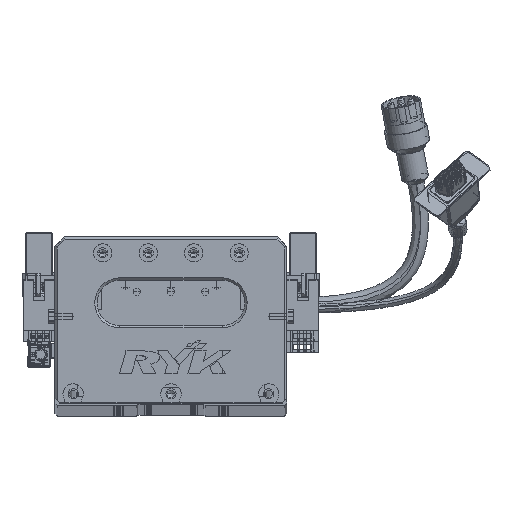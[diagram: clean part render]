
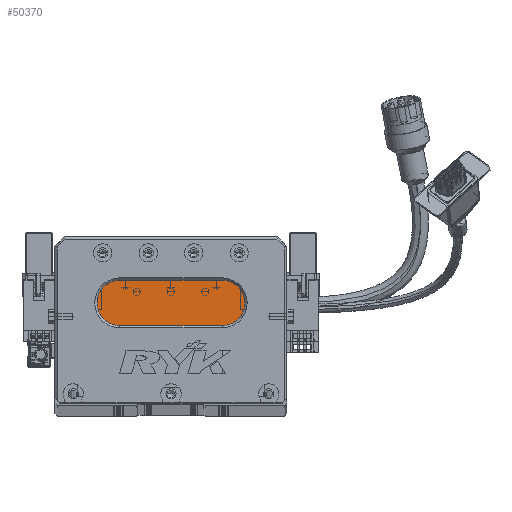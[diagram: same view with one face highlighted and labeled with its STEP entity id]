
A CAD part, top view. The second image highlights one B-rep face of the part: STEP entity #50370.
In plain terms, the highlighted planar face has unit normal (0, 0, 1) as drawn and (0, 0, -1) by its records, which use the part's own axes.
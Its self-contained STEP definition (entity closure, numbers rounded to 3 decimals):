
#1992 = CARTESIAN_POINT ( 'NONE',  ( 73.5, 34., 13. ) ) ;
#3197 = CARTESIAN_POINT ( 'NONE',  ( 73.5, 34., 13. ) ) ;
#5204 = AXIS2_PLACEMENT_3D ( 'NONE', #30850, #64890, #24337 ) ;
#6355 = AXIS2_PLACEMENT_3D ( 'NONE', #33076, #32782, #26278 ) ;
#8850 = EDGE_LOOP ( 'NONE', ( #16982, #85801, #21104, #55664, #73897 ) ) ;
#14560 = DIRECTION ( 'NONE',  ( -1., 0., 0. ) ) ;
#15978 = CARTESIAN_POINT ( 'NONE',  ( 18.5, 44., 13. ) ) ;
#16982 = ORIENTED_EDGE ( 'NONE', *, *, #57959, .T. ) ;
#18154 = VERTEX_POINT ( 'NONE', #60741 ) ;
#18693 = CIRCLE ( 'NONE', #84537, 10. ) ;
#21104 = ORIENTED_EDGE ( 'NONE', *, *, #57321, .T. ) ;
#23284 = CARTESIAN_POINT ( 'NONE',  ( 73.5, 54., 13. ) ) ;
#24105 = LINE ( 'NONE', #1992, #37833 ) ;
#24337 = DIRECTION ( 'NONE',  ( -1., 0., 0. ) ) ;
#25679 = CARTESIAN_POINT ( 'NONE',  ( 28.5, 44., 13. ) ) ;
#25717 = CIRCLE ( 'NONE', #6355, 10. ) ;
#26070 = VERTEX_POINT ( 'NONE', #15978 ) ;
#26278 = DIRECTION ( 'NONE',  ( -1., 0., 0. ) ) ;
#30850 = CARTESIAN_POINT ( 'NONE',  ( 28.5, 44., 13. ) ) ;
#32782 = DIRECTION ( 'NONE',  ( 0., 0., -1. ) ) ;
#33076 = CARTESIAN_POINT ( 'NONE',  ( 73.5, 44., 13. ) ) ;
#34139 = EDGE_CURVE ( 'NONE', #26070, #49040, #18693, .T. ) ;
#35856 = AXIS2_PLACEMENT_3D ( 'NONE', #54789, #68671, #14560 ) ;
#37833 = VECTOR ( 'NONE', #42708, 1000. ) ;
#38856 = VECTOR ( 'NONE', #80092, 1000. ) ;
#40181 = EDGE_CURVE ( 'NONE', #49040, #47229, #60135, .T. ) ;
#42708 = DIRECTION ( 'NONE',  ( -1., 0., 0. ) ) ;
#46941 = CARTESIAN_POINT ( 'NONE',  ( 73.5, 54., 13. ) ) ;
#47229 = VERTEX_POINT ( 'NONE', #23284 ) ;
#48548 = PLANE ( 'NONE',  #35856 ) ;
#49040 = VERTEX_POINT ( 'NONE', #73346 ) ;
#50370 = ADVANCED_FACE ( 'NONE', ( #70405 ), #48548, .T. ) ;
#53217 = DIRECTION ( 'NONE',  ( 0., 0., -1. ) ) ;
#54789 = CARTESIAN_POINT ( 'NONE',  ( 73.5, 44., 13. ) ) ;
#55664 = ORIENTED_EDGE ( 'NONE', *, *, #34139, .T. ) ;
#57321 = EDGE_CURVE ( 'NONE', #18154, #26070, #79886, .T. ) ;
#57959 = EDGE_CURVE ( 'NONE', #47229, #75361, #25717, .T. ) ;
#60135 = LINE ( 'NONE', #46941, #38856 ) ;
#60741 = CARTESIAN_POINT ( 'NONE',  ( 28.5, 34., 13. ) ) ;
#64890 = DIRECTION ( 'NONE',  ( 0., 0., -1. ) ) ;
#68671 = DIRECTION ( 'NONE',  ( 0., 0., -1. ) ) ;
#69210 = EDGE_CURVE ( 'NONE', #75361, #18154, #24105, .T. ) ;
#70405 = FACE_OUTER_BOUND ( 'NONE', #8850, .T. ) ;
#72428 = DIRECTION ( 'NONE',  ( -1., 0., 0. ) ) ;
#73346 = CARTESIAN_POINT ( 'NONE',  ( 28.5, 54., 13. ) ) ;
#73897 = ORIENTED_EDGE ( 'NONE', *, *, #40181, .T. ) ;
#75361 = VERTEX_POINT ( 'NONE', #3197 ) ;
#79886 = CIRCLE ( 'NONE', #5204, 10. ) ;
#80092 = DIRECTION ( 'NONE',  ( 1., 0., 0. ) ) ;
#84537 = AXIS2_PLACEMENT_3D ( 'NONE', #25679, #53217, #72428 ) ;
#85801 = ORIENTED_EDGE ( 'NONE', *, *, #69210, .T. ) ;
